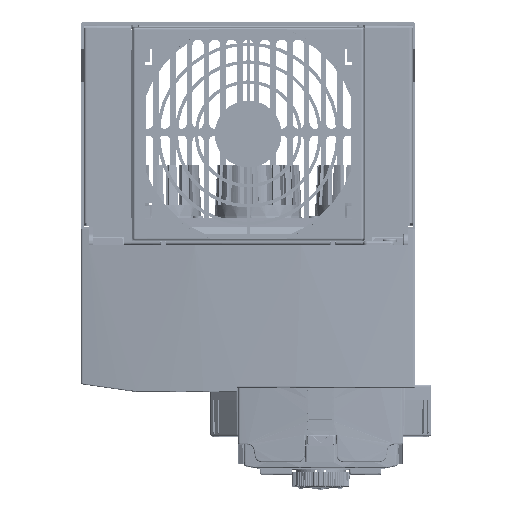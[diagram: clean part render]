
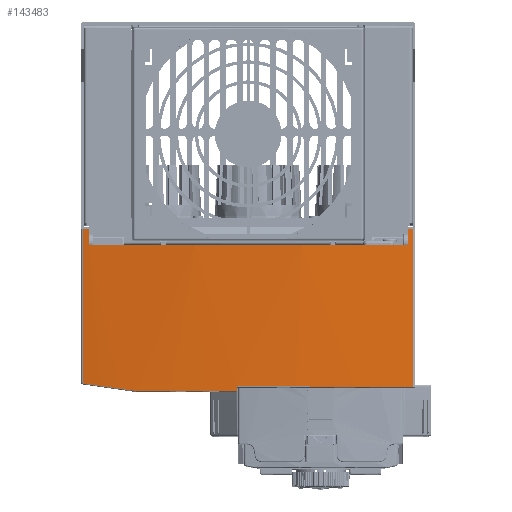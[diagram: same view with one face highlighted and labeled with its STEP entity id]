
A CAD part, top view. The second image highlights one B-rep face of the part: STEP entity #143483.
In plain terms, the highlighted conical face has half-angle 0.5 degrees and reference radius 564.684 mm.
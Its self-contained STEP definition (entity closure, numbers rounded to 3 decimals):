
#109526=CARTESIAN_POINT('',(0.,0.,422.5));
#109527=DIRECTION('',(0.,1.,0.));
#109528=DIRECTION('',(0.131,0.,-0.991));
#109529=AXIS2_PLACEMENT_3D('',#109526,#109527,#109528);
#112539=CARTESIAN_POINT('',(0.,0.,422.5));
#112540=DIRECTION('',(0.,1.,0.));
#112541=DIRECTION('',(-0.127,0.,-0.992));
#112542=AXIS2_PLACEMENT_3D('',#112539,#112540,#112541);
#115839=CARTESIAN_POINT('',(0.,7.2,422.5));
#115840=DIRECTION('',(0.,1.,0.));
#115841=DIRECTION('',(0.127,0.,-0.992));
#115842=AXIS2_PLACEMENT_3D('',#115839,#115840,#115841);
#115844=CARTESIAN_POINT('',(71.502,0.,
-137.957));
#115845=CARTESIAN_POINT('',(71.502,2.4,
-137.936));
#115846=CARTESIAN_POINT('',(71.498,4.8,
-137.916));
#115847=CARTESIAN_POINT('',(71.498,7.2,
-137.895));
#115853=CARTESIAN_POINT('',(0.412,71.626,
433.675));
#115854=DIRECTION('',(-0.139,0.99,0.014));
#115855=DIRECTION('',(-0.088,0.002,-0.996));
#115856=AXIS2_PLACEMENT_3D('',#115853,#115854,#115855);
#115858=CARTESIAN_POINT('',(-74.131,69.115,
-137.007));
#115859=CARTESIAN_POINT('',(-74.131,46.077,
-137.21));
#115860=CARTESIAN_POINT('',(-74.131,23.039,
-137.413));
#115861=CARTESIAN_POINT('',(-74.131,0.,
-137.616));
#115863=CARTESIAN_POINT('',(-71.502,0.,
-137.957));
#115864=CARTESIAN_POINT('',(-71.502,2.4,
-137.936));
#115865=CARTESIAN_POINT('',(-71.498,4.8,
-137.916));
#115866=CARTESIAN_POINT('',(-71.498,7.2,
-137.895));
#115868=CARTESIAN_POINT('',(74.131,0.,
-137.616));
#115869=CARTESIAN_POINT('',(74.131,23.501,
-137.409));
#115870=CARTESIAN_POINT('',(74.131,47.002,
-137.202));
#115871=CARTESIAN_POINT('',(74.131,70.503,
-136.995));
#115948=CARTESIAN_POINT('',(-5.079,72.505,
-141.847));
#115949=CARTESIAN_POINT('',(-5.067,71.849,
-141.853));
#115950=CARTESIAN_POINT('',(-5.055,71.172,
-141.853));
#115951=CARTESIAN_POINT('',(-5.044,70.515,
-141.859));
#116485=CARTESIAN_POINT('',(0.,70.504,422.5));
#116486=DIRECTION('',(0.,-1.,0.));
#116487=DIRECTION('',(-0.009,0.,-1.));
#116488=AXIS2_PLACEMENT_3D('',#116485,#116486,#116487);
#118732=CARTESIAN_POINT('',(74.131,0.,
-137.616));
#120210=CARTESIAN_POINT('',(0.,72.504,422.5));
#120211=DIRECTION('',(0.,-1.,0.));
#120212=DIRECTION('',(-0.089,0.,-0.996));
#120213=AXIS2_PLACEMENT_3D('',#120210,#120211,#120212);
#128147=VERTEX_POINT('',#118732);
#128148=CARTESIAN_POINT('',(71.501,0.,
-137.957));
#128149=VERTEX_POINT('',#128148);
#129615=CARTESIAN_POINT('',(-71.502,0.,
-137.957));
#129616=VERTEX_POINT('',#129615);
#129617=CARTESIAN_POINT('',(-74.131,0.,
-137.616));
#129618=VERTEX_POINT('',#129617);
#130864=CARTESIAN_POINT('',(-71.498,7.2,
-137.895));
#130865=VERTEX_POINT('',#130864);
#130866=CARTESIAN_POINT('',(71.498,7.2,
-137.895));
#130867=VERTEX_POINT('',#130866);
#130868=CARTESIAN_POINT('',(-50.182,72.504,
-139.632));
#130869=CARTESIAN_POINT('',(-74.131,69.115,
-137.007));
#130870=VERTEX_POINT('',#130868);
#130871=VERTEX_POINT('',#130869);
#130872=VERTEX_POINT('',#115871);
#130873=CARTESIAN_POINT('',(-5.044,70.504,
-141.862));
#130874=VERTEX_POINT('',#130873);
#130875=VERTEX_POINT('',#115948);
#143459=CARTESIAN_POINT('',(0.,36.252,422.5));
#143460=DIRECTION('',(0.,-1.,0.));
#143461=DIRECTION('',(-1.,0.,0.));
#143462=AXIS2_PLACEMENT_3D('',#143459,#143460,#143461);
#143463=CONICAL_SURFACE('',#143462,564.684,0.5);
#143465=ORIENTED_EDGE('',*,*,#143464,.T.);
#143467=ORIENTED_EDGE('',*,*,#143466,.T.);
#143468=ORIENTED_EDGE('',*,*,#138898,.F.);
#143469=ORIENTED_EDGE('',*,*,#143406,.T.);
#143470=ORIENTED_EDGE('',*,*,#143427,.F.);
#143471=ORIENTED_EDGE('',*,*,#143445,.F.);
#143472=ORIENTED_EDGE('',*,*,#133962,.F.);
#143474=ORIENTED_EDGE('',*,*,#143473,.T.);
#143476=ORIENTED_EDGE('',*,*,#143475,.F.);
#143478=ORIENTED_EDGE('',*,*,#143477,.F.);
#143480=ORIENTED_EDGE('',*,*,#143479,.F.);
#143481=EDGE_LOOP('',(#143465,#143467,#143468,#143469,#143470,#143471,#143472,
#143474,#143476,#143478,#143480));
#143482=FACE_OUTER_BOUND('',#143481,.F.);
#109530=CIRCLE('',#109529,565.);
#112543=CIRCLE('',#112542,565.);
#115843=CIRCLE('',#115842,564.937);
#115848=B_SPLINE_CURVE_WITH_KNOTS('',3,(#115844,#115845,#115846,#115847),
.UNSPECIFIED.,.F.,.F.,(4,4),(0.,1.),.UNSPECIFIED.);
#115857=CIRCLE('',#115856,575.536);
#115862=B_SPLINE_CURVE_WITH_KNOTS('',3,(#115858,#115859,#115860,#115861),
.UNSPECIFIED.,.F.,.F.,(4,4),(0.,1.),.UNSPECIFIED.);
#115867=B_SPLINE_CURVE_WITH_KNOTS('',3,(#115863,#115864,#115865,#115866),
.UNSPECIFIED.,.F.,.F.,(4,4),(0.,1.),.UNSPECIFIED.);
#115872=B_SPLINE_CURVE_WITH_KNOTS('',3,(#115868,#115869,#115870,#115871),
.UNSPECIFIED.,.F.,.F.,(4,4),(0.,1.),.UNSPECIFIED.);
#115952=B_SPLINE_CURVE_WITH_KNOTS('',3,(#115948,#115949,#115950,#115951),
.UNSPECIFIED.,.F.,.F.,(4,4),(0.,1.),.UNSPECIFIED.);
#116489=CIRCLE('',#116488,564.385);
#120214=CIRCLE('',#120213,564.367);
#133962=EDGE_CURVE('',#128147,#128149,#109530,.T.);
#138898=EDGE_CURVE('',#129616,#129618,#112543,.T.);
#143406=EDGE_CURVE('',#129616,#130865,#115867,.T.);
#143427=EDGE_CURVE('',#130867,#130865,#115843,.T.);
#143445=EDGE_CURVE('',#128149,#130867,#115848,.T.);
#143464=EDGE_CURVE('',#130870,#130871,#115857,.T.);
#143466=EDGE_CURVE('',#130871,#129618,#115862,.T.);
#143473=EDGE_CURVE('',#128147,#130872,#115872,.T.);
#143475=EDGE_CURVE('',#130874,#130872,#116489,.T.);
#143477=EDGE_CURVE('',#130875,#130874,#115952,.T.);
#143479=EDGE_CURVE('',#130870,#130875,#120214,.T.);
#143483=ADVANCED_FACE('',(#143482),#143463,.T.);
